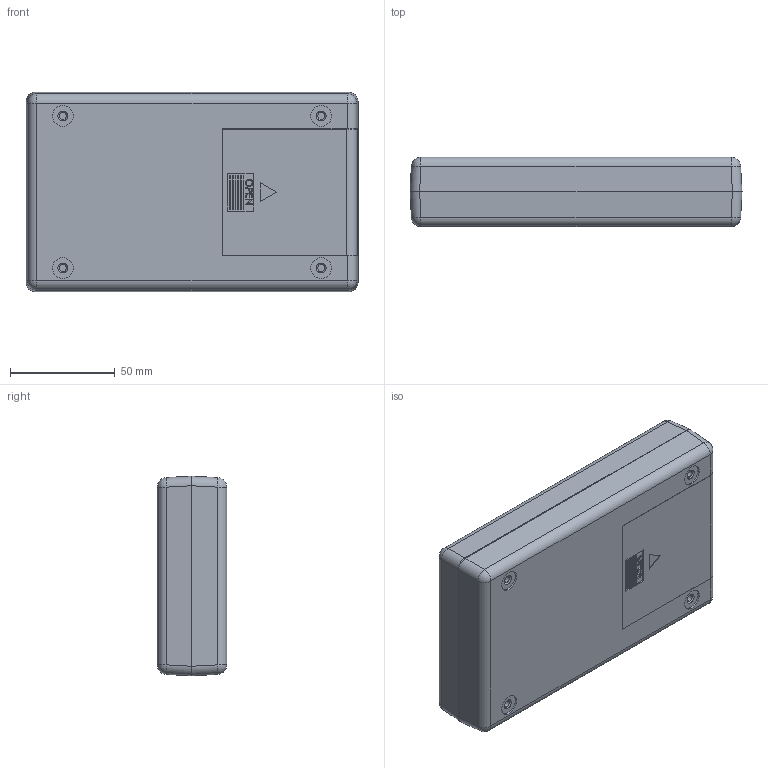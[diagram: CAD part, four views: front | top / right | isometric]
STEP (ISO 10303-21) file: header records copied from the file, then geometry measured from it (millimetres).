
FILE_DESCRIPTION (( 'STEP AP214' ), '1' );
FILE_NAME ('UCCM-117.STEP', '2020-05-22T17:59:30', ( 'Rudy' ), ( '' ), 'SwSTEP 2.0', 'SolidWorks 2014', '' );
FILE_SCHEMA (( 'AUTOMOTIVE_DESIGN' ));
Length unit declared in the file: inch
Products named in the file (4): door-4AA; UCCM-Shallow-top; UCCM-4-AA-bot; UCCM-117
Assembly tree (3 placements, depth 2):
  UCCM-117
    UCCM-4-AA-bot
    UCCM-Shallow-top
    door-4AA
Bounding box: 158.12 x 33.05 x 95.07 mm (x, y, z)
Volume: 137123.5 mm3; surface area: 114954.1 mm2
Topology: 3 solids, 3 shells, 888 faces, 2399 edges, 1543 vertices
Faces by surface type: plane 490, cylinder 245, cone 76, torus 49, bspline 20, sphere 8
Entity records: 29152 total; most frequent: CARTESIAN_POINT 6294, ORIENTED_EDGE 4782, DIRECTION 4723, EDGE_CURVE 2391, LINE 1627, VECTOR 1627, AXIS2_PLACEMENT_3D 1548, VERTEX_POINT 1543
